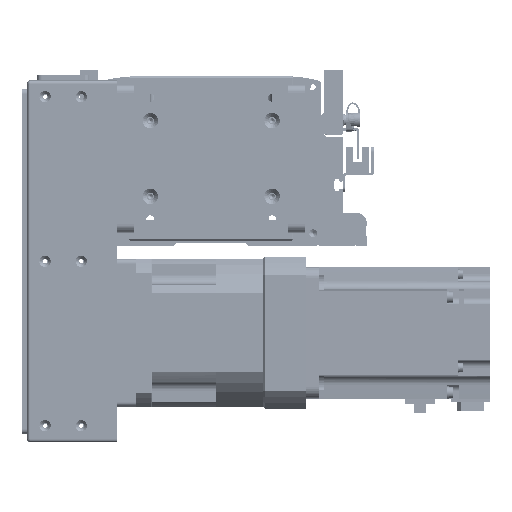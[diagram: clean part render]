
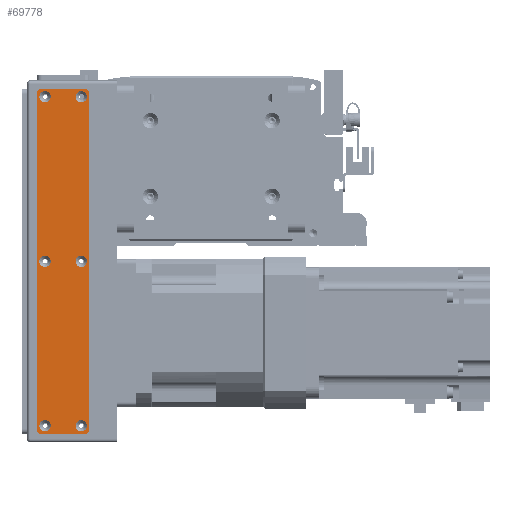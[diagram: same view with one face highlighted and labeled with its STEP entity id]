
A CAD part, front view. The second image highlights one B-rep face of the part: STEP entity #69778.
In plain terms, the highlighted planar face has unit normal (0, -1, 0).
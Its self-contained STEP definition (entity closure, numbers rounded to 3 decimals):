
#1924=FACE_BOUND('',#14590,.T.);
#1925=FACE_BOUND('',#14591,.T.);
#1926=FACE_BOUND('',#14592,.T.);
#1927=FACE_BOUND('',#14593,.T.);
#1928=FACE_BOUND('',#14594,.T.);
#1929=FACE_BOUND('',#14595,.T.);
#5331=PLANE('',#77252);
#10149=FACE_OUTER_BOUND('',#14589,.T.);
#14589=EDGE_LOOP('',(#65758,#65759,#65760,#65761,#65762,#65763,#65764,#65765));
#14590=EDGE_LOOP('',(#65766));
#14591=EDGE_LOOP('',(#65767));
#14592=EDGE_LOOP('',(#65768));
#14593=EDGE_LOOP('',(#65769));
#14594=EDGE_LOOP('',(#65770));
#14595=EDGE_LOOP('',(#65771));
#21006=LINE('',#120155,#27416);
#21007=LINE('',#120159,#27417);
#21008=LINE('',#120163,#27418);
#21009=LINE('',#120166,#27419);
#27416=VECTOR('',#97269,10.);
#27417=VECTOR('',#97272,10.);
#27418=VECTOR('',#97275,10.);
#27419=VECTOR('',#97278,10.);
#30130=CIRCLE('',#77220,3.45);
#30133=CIRCLE('',#77225,3.45);
#30136=CIRCLE('',#77230,3.45);
#30139=CIRCLE('',#77235,3.45);
#30142=CIRCLE('',#77240,3.45);
#30145=CIRCLE('',#77245,3.45);
#30148=CIRCLE('',#77250,3.);
#30150=CIRCLE('',#77253,3.);
#30151=CIRCLE('',#77254,3.);
#30152=CIRCLE('',#77255,3.);
#36563=VERTEX_POINT('',#120085);
#36566=VERTEX_POINT('',#120095);
#36569=VERTEX_POINT('',#120105);
#36572=VERTEX_POINT('',#120115);
#36575=VERTEX_POINT('',#120125);
#36578=VERTEX_POINT('',#120135);
#36581=VERTEX_POINT('',#120145);
#36582=VERTEX_POINT('',#120146);
#36585=VERTEX_POINT('',#120154);
#36586=VERTEX_POINT('',#120156);
#36587=VERTEX_POINT('',#120158);
#36588=VERTEX_POINT('',#120160);
#36589=VERTEX_POINT('',#120162);
#36590=VERTEX_POINT('',#120164);
#46282=EDGE_CURVE('',#36563,#36563,#30130,.T.);
#46287=EDGE_CURVE('',#36566,#36566,#30133,.T.);
#46292=EDGE_CURVE('',#36569,#36569,#30136,.T.);
#46297=EDGE_CURVE('',#36572,#36572,#30139,.T.);
#46302=EDGE_CURVE('',#36575,#36575,#30142,.T.);
#46307=EDGE_CURVE('',#36578,#36578,#30145,.T.);
#46312=EDGE_CURVE('',#36581,#36582,#30148,.T.);
#46316=EDGE_CURVE('',#36581,#36585,#21006,.T.);
#46317=EDGE_CURVE('',#36586,#36585,#30150,.T.);
#46318=EDGE_CURVE('',#36586,#36587,#21007,.T.);
#46319=EDGE_CURVE('',#36588,#36587,#30151,.T.);
#46320=EDGE_CURVE('',#36588,#36589,#21008,.T.);
#46321=EDGE_CURVE('',#36590,#36589,#30152,.T.);
#46322=EDGE_CURVE('',#36590,#36582,#21009,.T.);
#65758=ORIENTED_EDGE('',*,*,#46312,.F.);
#65759=ORIENTED_EDGE('',*,*,#46316,.T.);
#65760=ORIENTED_EDGE('',*,*,#46317,.F.);
#65761=ORIENTED_EDGE('',*,*,#46318,.T.);
#65762=ORIENTED_EDGE('',*,*,#46319,.F.);
#65763=ORIENTED_EDGE('',*,*,#46320,.T.);
#65764=ORIENTED_EDGE('',*,*,#46321,.F.);
#65765=ORIENTED_EDGE('',*,*,#46322,.T.);
#65766=ORIENTED_EDGE('',*,*,#46282,.T.);
#65767=ORIENTED_EDGE('',*,*,#46287,.T.);
#65768=ORIENTED_EDGE('',*,*,#46292,.T.);
#65769=ORIENTED_EDGE('',*,*,#46297,.T.);
#65770=ORIENTED_EDGE('',*,*,#46302,.T.);
#65771=ORIENTED_EDGE('',*,*,#46307,.T.);
#69778=ADVANCED_FACE('',(#10149,#1924,#1925,#1926,#1927,#1928,#1929),#5331,
 .T.);
#77220=AXIS2_PLACEMENT_3D('',#120086,#97189,#97190);
#77225=AXIS2_PLACEMENT_3D('',#120096,#97201,#97202);
#77230=AXIS2_PLACEMENT_3D('',#120106,#97213,#97214);
#77235=AXIS2_PLACEMENT_3D('',#120116,#97225,#97226);
#77240=AXIS2_PLACEMENT_3D('',#120126,#97237,#97238);
#77245=AXIS2_PLACEMENT_3D('',#120136,#97249,#97250);
#77250=AXIS2_PLACEMENT_3D('',#120147,#97261,#97262);
#77252=AXIS2_PLACEMENT_3D('',#120153,#97267,#97268);
#77253=AXIS2_PLACEMENT_3D('',#120157,#97270,#97271);
#77254=AXIS2_PLACEMENT_3D('',#120161,#97273,#97274);
#77255=AXIS2_PLACEMENT_3D('',#120165,#97276,#97277);
#97189=DIRECTION('center_axis',(0.,1.,0.));
#97190=DIRECTION('ref_axis',(1.,0.,0.));
#97201=DIRECTION('center_axis',(0.,1.,0.));
#97202=DIRECTION('ref_axis',(1.,0.,0.));
#97213=DIRECTION('center_axis',(0.,1.,0.));
#97214=DIRECTION('ref_axis',(1.,0.,0.));
#97225=DIRECTION('center_axis',(0.,1.,0.));
#97226=DIRECTION('ref_axis',(1.,0.,0.));
#97237=DIRECTION('center_axis',(0.,1.,0.));
#97238=DIRECTION('ref_axis',(1.,0.,0.));
#97249=DIRECTION('center_axis',(0.,1.,0.));
#97250=DIRECTION('ref_axis',(1.,0.,0.));
#97261=DIRECTION('center_axis',(0.,1.,0.));
#97262=DIRECTION('ref_axis',(-0.707,0.,0.707));
#97267=DIRECTION('center_axis',(0.,-1.,0.));
#97268=DIRECTION('ref_axis',(0.,0.,-1.));
#97269=DIRECTION('',(0.,0.,-1.));
#97270=DIRECTION('center_axis',(0.,1.,0.));
#97271=DIRECTION('ref_axis',(-0.707,0.,-0.707));
#97272=DIRECTION('',(1.,0.,0.));
#97273=DIRECTION('center_axis',(0.,1.,0.));
#97274=DIRECTION('ref_axis',(0.707,0.,-0.707));
#97275=DIRECTION('',(0.,0.,1.));
#97276=DIRECTION('center_axis',(0.,1.,0.));
#97277=DIRECTION('ref_axis',(0.707,0.,0.707));
#97278=DIRECTION('',(-1.,0.,0.));
#120085=CARTESIAN_POINT('',(96.55,-1.5,11.));
#120086=CARTESIAN_POINT('Origin',(100.,-1.5,11.));
#120095=CARTESIAN_POINT('',(-103.45,-1.5,-11.));
#120096=CARTESIAN_POINT('Origin',(-100.,-1.5,-11.));
#120105=CARTESIAN_POINT('',(-3.45,-1.5,11.));
#120106=CARTESIAN_POINT('Origin',(0.,-1.5,11.));
#120115=CARTESIAN_POINT('',(-3.45,-1.5,-11.));
#120116=CARTESIAN_POINT('Origin',(0.,-1.5,-11.));
#120125=CARTESIAN_POINT('',(-103.45,-1.5,11.));
#120126=CARTESIAN_POINT('Origin',(-100.,-1.5,11.));
#120135=CARTESIAN_POINT('',(96.55,-1.5,-11.));
#120136=CARTESIAN_POINT('Origin',(100.,-1.5,-11.));
#120145=CARTESIAN_POINT('',(-105.,-1.5,13.));
#120146=CARTESIAN_POINT('',(-102.,-1.5,16.));
#120147=CARTESIAN_POINT('Origin',(-102.,-1.5,13.));
#120153=CARTESIAN_POINT('Origin',(0.,-1.5,0.));
#120154=CARTESIAN_POINT('',(-105.,-1.5,-13.));
#120155=CARTESIAN_POINT('',(-105.,-1.5,16.));
#120156=CARTESIAN_POINT('',(-102.,-1.5,-16.));
#120157=CARTESIAN_POINT('Origin',(-102.,-1.5,-13.));
#120158=CARTESIAN_POINT('',(102.,-1.5,-16.));
#120159=CARTESIAN_POINT('',(-105.,-1.5,-16.));
#120160=CARTESIAN_POINT('',(105.,-1.5,-13.));
#120161=CARTESIAN_POINT('Origin',(102.,-1.5,-13.));
#120162=CARTESIAN_POINT('',(105.,-1.5,13.));
#120163=CARTESIAN_POINT('',(105.,-1.5,-16.));
#120164=CARTESIAN_POINT('',(102.,-1.5,16.));
#120165=CARTESIAN_POINT('Origin',(102.,-1.5,13.));
#120166=CARTESIAN_POINT('',(105.,-1.5,16.));
